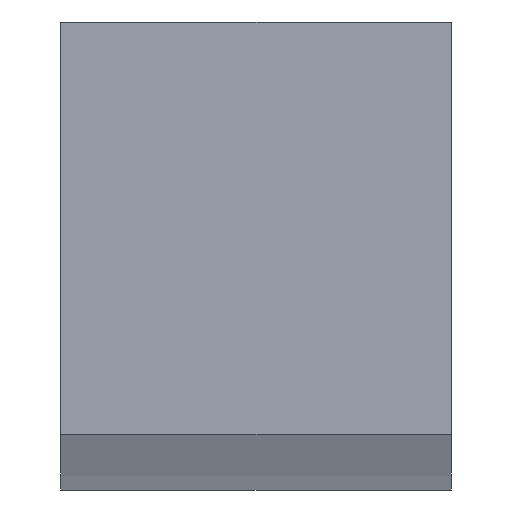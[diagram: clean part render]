
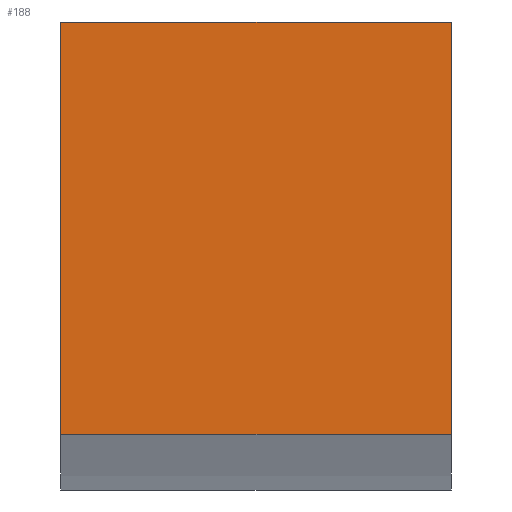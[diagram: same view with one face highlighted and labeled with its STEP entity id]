
A CAD part, left-side view. The second image highlights one B-rep face of the part: STEP entity #188.
In plain terms, the highlighted planar face has unit normal (-1, 0, 0).
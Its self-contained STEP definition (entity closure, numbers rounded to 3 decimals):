
#50=ORIENTED_EDGE('',*,*,#93,.T.);
#51=ORIENTED_EDGE('',*,*,#94,.F.);
#52=ORIENTED_EDGE('',*,*,#95,.F.);
#53=ORIENTED_EDGE('',*,*,#91,.T.);
#91=EDGE_CURVE('',#111,#110,#128,.T.);
#93=EDGE_CURVE('',#110,#112,#129,.T.);
#94=EDGE_CURVE('',#113,#112,#130,.T.);
#95=EDGE_CURVE('',#111,#113,#131,.T.);
#110=VERTEX_POINT('',#305);
#111=VERTEX_POINT('',#307);
#112=VERTEX_POINT('',#311);
#113=VERTEX_POINT('',#313);
#128=LINE('',#306,#148);
#129=LINE('',#310,#149);
#130=LINE('',#312,#150);
#131=LINE('',#314,#151);
#148=VECTOR('',#253,1000.);
#149=VECTOR('',#258,1000.);
#150=VECTOR('',#259,1000.);
#151=VECTOR('',#260,1000.);
#160=EDGE_LOOP('',(#50,#51,#52,#53));
#170=FACE_BOUND('',#160,.T.);
#178=PLANE('',#215);
#188=ADVANCED_FACE('',(#170),#178,.F.);
#215=AXIS2_PLACEMENT_3D('',#309,#256,#257);
#253=DIRECTION('',(0.,-1.,0.));
#256=DIRECTION('',(1.,0.,0.));
#257=DIRECTION('',(0.,0.,-1.));
#258=DIRECTION('',(0.,0.,1.));
#259=DIRECTION('',(0.,-1.,0.));
#260=DIRECTION('',(0.,0.,1.));
#305=CARTESIAN_POINT('',(-0.243,-2.,-0.105));
#306=CARTESIAN_POINT('',(-0.243,2.,-0.105));
#307=CARTESIAN_POINT('',(-0.243,2.,-0.105));
#309=CARTESIAN_POINT('',(-0.243,2.,4.116));
#310=CARTESIAN_POINT('',(-0.243,-2.,4.116));
#311=CARTESIAN_POINT('',(-0.243,-2.,4.116));
#312=CARTESIAN_POINT('',(-0.243,2.,4.116));
#313=CARTESIAN_POINT('',(-0.243,2.,4.116));
#314=CARTESIAN_POINT('',(-0.243,2.,4.116));
